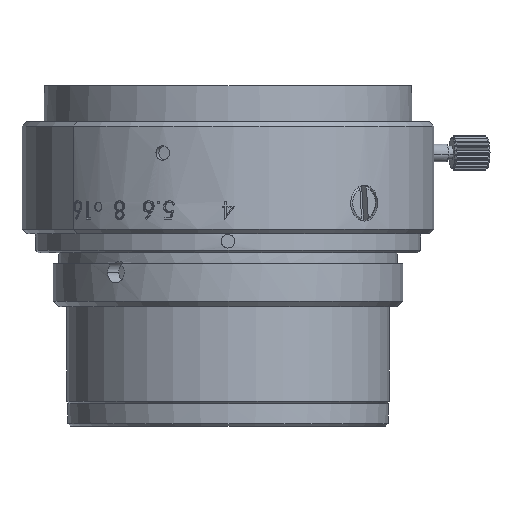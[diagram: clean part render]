
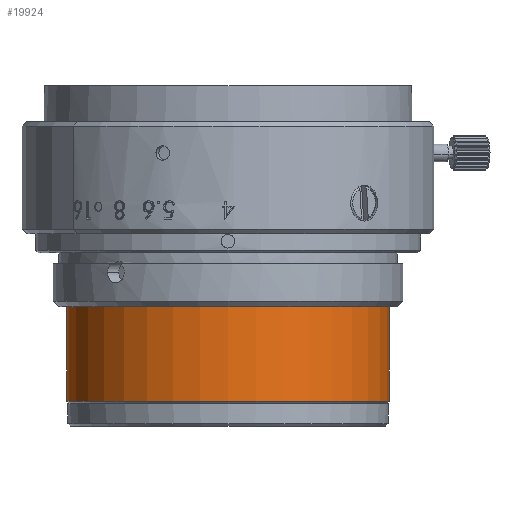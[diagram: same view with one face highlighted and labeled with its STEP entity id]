
A CAD part, front view. The second image highlights one B-rep face of the part: STEP entity #19924.
In plain terms, the highlighted cylindrical face has radius 18 mm (diameter 36 mm), a partial arc.
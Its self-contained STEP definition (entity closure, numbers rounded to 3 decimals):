
#339 = VERTEX_POINT ( 'NONE', #20347 ) ;
#374 = DIRECTION ( 'NONE',  ( 1., 0., 0. ) ) ;
#945 = CIRCLE ( 'NONE', #17114, 18. ) ;
#1040 = ORIENTED_EDGE ( 'NONE', *, *, #2939, .T. ) ;
#1177 = CARTESIAN_POINT ( 'NONE',  ( 0., 0., -3.76 ) ) ;
#1558 = CARTESIAN_POINT ( 'NONE',  ( -18., 0., -3.76 ) ) ;
#1643 = VERTEX_POINT ( 'NONE', #1558 ) ;
#2939 = EDGE_CURVE ( 'NONE', #339, #21742, #19707, .T. ) ;
#3203 = DIRECTION ( 'NONE',  ( 0., 0., 1. ) ) ;
#4029 = EDGE_LOOP ( 'NONE', ( #11695, #1040, #22145, #20426 ) ) ;
#4886 = CARTESIAN_POINT ( 'NONE',  ( 18., 0., -3.76 ) ) ;
#5300 = VERTEX_POINT ( 'NONE', #4886 ) ;
#5552 = CARTESIAN_POINT ( 'NONE',  ( -18., 0., 16.789 ) ) ;
#7755 = VECTOR ( 'NONE', #14180, 1000. ) ;
#8910 = EDGE_CURVE ( 'NONE', #21742, #5300, #20985, .T. ) ;
#9316 = CARTESIAN_POINT ( 'NONE',  ( 0., 0., -14.3 ) ) ;
#11695 = ORIENTED_EDGE ( 'NONE', *, *, #12368, .F. ) ;
#12368 = EDGE_CURVE ( 'NONE', #339, #1643, #25363, .T. ) ;
#13672 = DIRECTION ( 'NONE',  ( 0., 0., 1. ) ) ;
#14180 = DIRECTION ( 'NONE',  ( 0., 0., 1. ) ) ;
#16429 = FACE_OUTER_BOUND ( 'NONE', #4029, .T. ) ;
#17114 = AXIS2_PLACEMENT_3D ( 'NONE', #1177, #3203, #25466 ) ;
#18058 = CARTESIAN_POINT ( 'NONE',  ( 0., 0., 16.789 ) ) ;
#18887 = AXIS2_PLACEMENT_3D ( 'NONE', #18058, #24264, #26878 ) ;
#19707 = CIRCLE ( 'NONE', #27096, 18. ) ;
#19924 = ADVANCED_FACE ( 'NONE', ( #16429 ), #27415, .T. ) ;
#20347 = CARTESIAN_POINT ( 'NONE',  ( -18., 0., -14.3 ) ) ;
#20426 = ORIENTED_EDGE ( 'NONE', *, *, #21285, .F. ) ;
#20985 = LINE ( 'NONE', #23137, #7755 ) ;
#21285 = EDGE_CURVE ( 'NONE', #1643, #5300, #945, .T. ) ;
#21742 = VERTEX_POINT ( 'NONE', #25435 ) ;
#22145 = ORIENTED_EDGE ( 'NONE', *, *, #8910, .T. ) ;
#23137 = CARTESIAN_POINT ( 'NONE',  ( 18., 0., 16.789 ) ) ;
#23175 = DIRECTION ( 'NONE',  ( 0., 0., 1. ) ) ;
#24264 = DIRECTION ( 'NONE',  ( 0., 0., 1. ) ) ;
#24469 = VECTOR ( 'NONE', #23175, 1000. ) ;
#25363 = LINE ( 'NONE', #5552, #24469 ) ;
#25435 = CARTESIAN_POINT ( 'NONE',  ( 18., 0., -14.3 ) ) ;
#25466 = DIRECTION ( 'NONE',  ( 1., 0., 0. ) ) ;
#26878 = DIRECTION ( 'NONE',  ( 1., 0., 0. ) ) ;
#27096 = AXIS2_PLACEMENT_3D ( 'NONE', #9316, #13672, #374 ) ;
#27415 = CYLINDRICAL_SURFACE ( 'NONE', #18887, 18. ) ;
